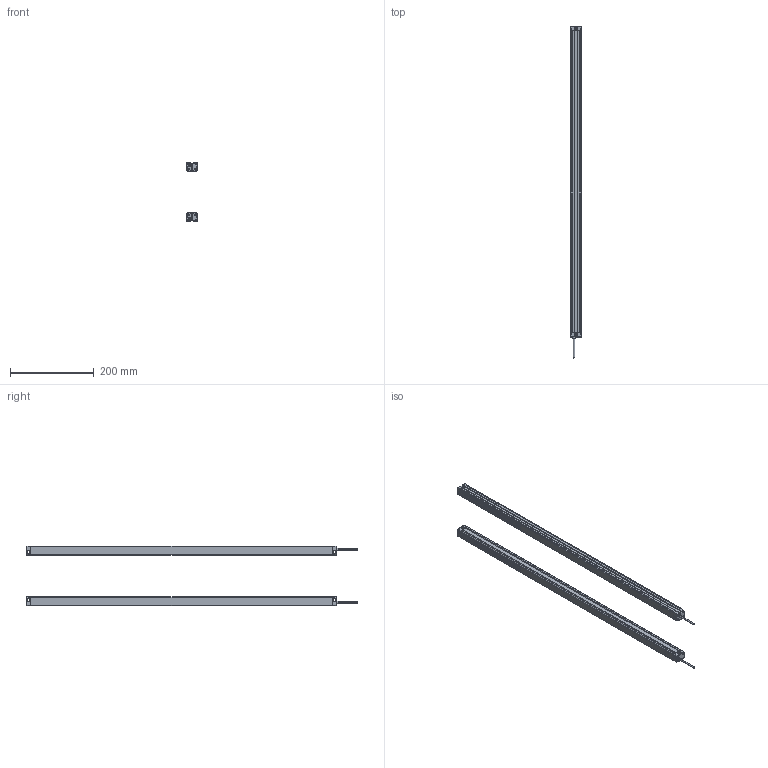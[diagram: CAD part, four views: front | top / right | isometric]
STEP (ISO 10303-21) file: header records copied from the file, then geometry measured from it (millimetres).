
FILE_DESCRIPTION (( 'STEP AP214' ), '1' );
FILE_NAME ('MTC3620.STEP', '2022-08-02T09:01:47', ( '' ), ( '' ), 'SwSTEP 2.0', 'SolidWorks 2018', '' );
FILE_SCHEMA (( 'AUTOMOTIVE_DESIGN' ));
Length unit declared in the file: millimetre
Products named in the file (5): MTC waike^MTC; P02^MTC; 噩砃P02^MTC; P01^MTC; MTC3620
Assembly tree (6 placements, depth 2):
  MTC3620
    MTC waike^MTC  x2
    P01^MTC  x2
    P02^MTC
    噩砃P02^MTC
Bounding box: 25 x 792 x 141.4 mm (x, y, z)
Volume: 247248.9 mm3; surface area: 339651.4 mm2
Topology: 8 solids, 8 shells, 480 faces, 1396 edges, 924 vertices
Faces by surface type: plane 272, cylinder 208
Entity records: 10886 total; most frequent: DIRECTION 1881, CARTESIAN_POINT 1878, ORIENTED_EDGE 1846, EDGE_CURVE 923, AXIS2_PLACEMENT_3D 637, VERTEX_POINT 610, LINE 607, VECTOR 607
